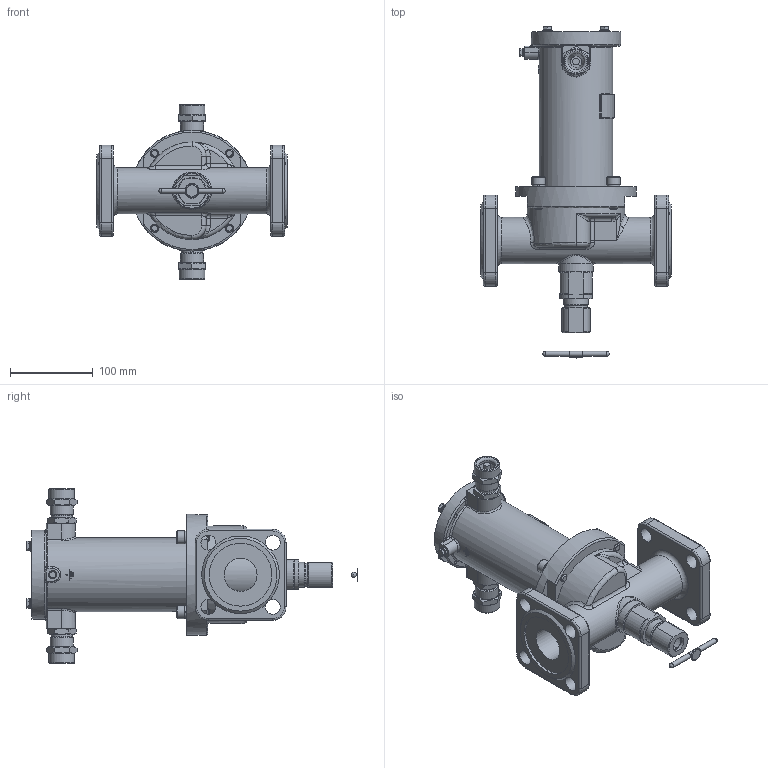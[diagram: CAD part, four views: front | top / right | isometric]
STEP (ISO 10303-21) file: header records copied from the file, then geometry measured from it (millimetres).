
FILE_DESCRIPTION(('STEP AP203'), '1');
FILE_NAME('ÑÅÍÑ DN40PN25.stp', '2018-09-19T08:34:31', ('Îðëîâ Å.Â.'), ('ÎÎÎ ÍÏÏ Ñåíñîð'), 'ASCON STEP Converter 1.3', 'Kompas 3D', '');
FILE_SCHEMA(('CONFIG_CONTROL_DESIGN','SUPPORT_RESOURCE_SCHEMA'));
Length unit declared in the file: millimetre
Products named in the file (1): 8
Bounding box: 230 x 401.5 x 211 mm (x, y, z)
Volume: 1518291.5 mm3; surface area: 376621.4 mm2
Topology: 2 solids, 18 shells, 1967 faces, 5229 edges, 3375 vertices
Faces by surface type: cylinder 1001, plane 724, cone 125, torus 50, bspline 47, extrusion 16, sphere 4
Full cylindrical faces by diameter (mm): 3.5 x2, 4.134 x1, 4.917 x4, 5 x1, 6 x11, 6.5 x4, 8 x8, 10 x9, 11 x4, 12 x4, 13 x2, 16 x6, 17 x2, 18 x9, 20 x5, 22 x2, 22.376 x2, 23 x1, 23.5 x2, 24 x2, 24.5 x2, 26 x4, 26.376 x2, 27.8 x1, 28 x3, 28.5 x2, 30 x2, 31 x2, 40 x2, 42 x1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
Entity records: 76736 total; most frequent: CARTESIAN_POINT 26749, DIRECTION 10846, ORIENTED_EDGE 10400, EDGE_CURVE 5200, AXIS2_PLACEMENT_3D 4162, VERTEX_POINT 3375, VECTOR 2522, LINE 2506
